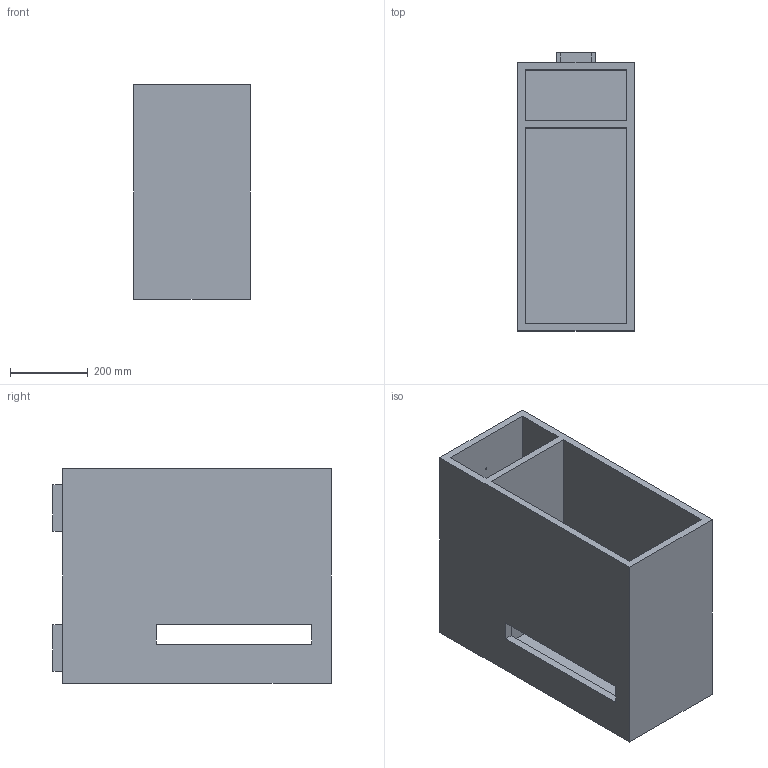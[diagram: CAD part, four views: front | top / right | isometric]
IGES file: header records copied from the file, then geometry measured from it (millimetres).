
Start section: SolidWorks IGES file using NURBS representation for surfaces
Global section: file name: G:\VICCARBE\PRODUCTOS\12-LEG-IN\04-MODELADOS (PLANOS)\SOLIDWORKS\LEG_IN 2011\ENSAMBLAJES\Mesas 3D\IGES\BUCS\VICCARBE_DOCPU.IGS; native system: SolidWorks 2009; preprocessor: SolidWorks 2009; author: RUBEN; date: 111024.103921; units: millimetre
Bounding box: 300 x 715 x 550 mm (x, y, z)
Surface area: 2728815.6 mm2 (no closed solid volume)
Topology: 0 solids, 0 shells, 38 faces, 280 edges, 280 vertices
Faces by surface type: bspline 38
